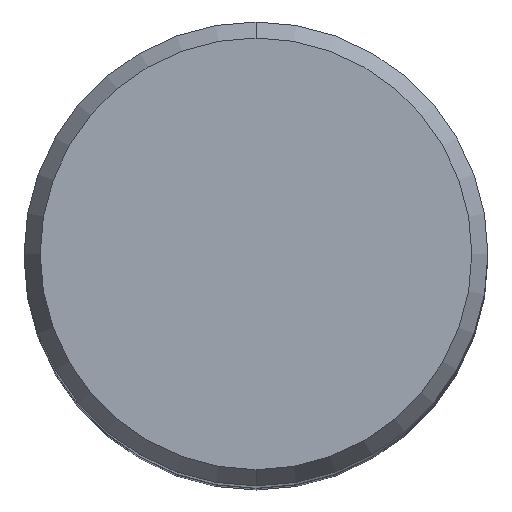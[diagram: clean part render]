
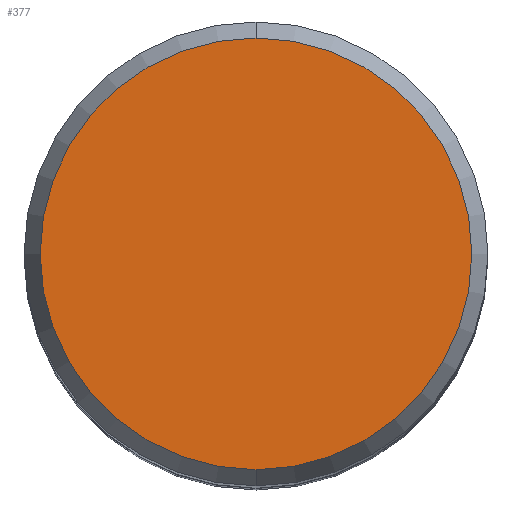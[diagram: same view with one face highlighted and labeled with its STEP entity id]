
A CAD part, top view. The second image highlights one B-rep face of the part: STEP entity #377.
In plain terms, the highlighted planar face has unit normal (0, 0, 1).
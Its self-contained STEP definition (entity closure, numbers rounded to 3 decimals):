
#193=EDGE_CURVE('',#393,#397,#509,.T.);
#199=EDGE_CURVE('',#397,#393,#515,.T.);
#377=ADVANCED_FACE('',(#717),#718,.T.);
#393=VERTEX_POINT('',#734);
#397=VERTEX_POINT('',#738);
#509=CIRCLE('',#876,9.307);
#515=CIRCLE('',#885,9.307);
#717=FACE_OUTER_BOUND('',#1325,.T.);
#718=PLANE('',#1326);
#734=CARTESIAN_POINT('',(0.,-9.307,0.0));
#738=CARTESIAN_POINT('',(0.0,9.307,0.0));
#876=AXIS2_PLACEMENT_3D('',#1651,#1652,#1653);
#885=AXIS2_PLACEMENT_3D('',#1655,#1656,#1657);
#1325=EDGE_LOOP('',(#1904,#1905));
#1326=AXIS2_PLACEMENT_3D('',#1906,#1907,#1908);
#1651=CARTESIAN_POINT('',(0.0,0.0,0.0));
#1652=DIRECTION('',(0.0,0.0,-1.0));
#1653=DIRECTION('',(0.0,1.0,0.0));
#1655=CARTESIAN_POINT('',(0.0,0.0,0.0));
#1656=DIRECTION('',(0.0,0.0,-1.0));
#1657=DIRECTION('',(0.0,1.0,0.0));
#1904=ORIENTED_EDGE('',*,*,#199,.F.);
#1905=ORIENTED_EDGE('',*,*,#193,.F.);
#1906=CARTESIAN_POINT('',(0.0,4.654,0.0));
#1907=DIRECTION('',(-0.0,0.0,1.0));
#1908=DIRECTION('',(0.0,-1.0,0.0));
